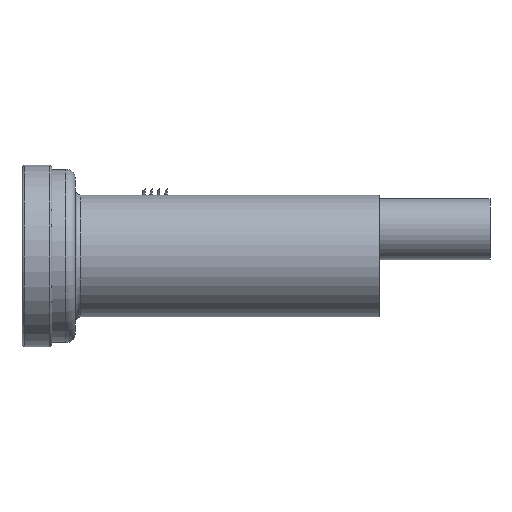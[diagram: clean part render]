
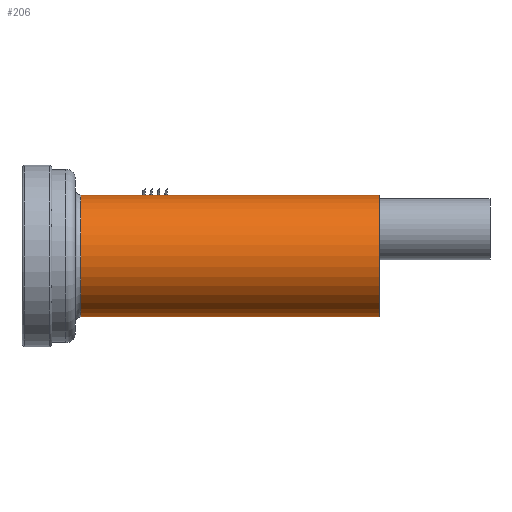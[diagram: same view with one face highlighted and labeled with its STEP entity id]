
A CAD part, left-side view. The second image highlights one B-rep face of the part: STEP entity #206.
In plain terms, the highlighted cylindrical face has radius 45 mm (diameter 90 mm), a full revolution.
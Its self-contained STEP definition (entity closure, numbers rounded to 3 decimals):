
#206 = ADVANCED_FACE( '', ( #451, #452 ), #453, .T. );
#451 = FACE_OUTER_BOUND( '', #853, .T. );
#452 = FACE_OUTER_BOUND( '', #854, .T. );
#453 = CYLINDRICAL_SURFACE( '', #855, 45. );
#853 = EDGE_LOOP( '', ( #1249 ) );
#854 = EDGE_LOOP( '', ( #1250 ) );
#855 = AXIS2_PLACEMENT_3D( '', #1251, #1252, #1253 );
#1249 = ORIENTED_EDGE( '', *, *, #1821, .T. );
#1250 = ORIENTED_EDGE( '', *, *, #1822, .F. );
#1251 = CARTESIAN_POINT( '', ( 0., 0., 0. ) );
#1252 = DIRECTION( '', ( 0., 1., 0. ) );
#1253 = DIRECTION( '', ( 0., 0., -1. ) );
#1821 = EDGE_CURVE( '', #2022, #2022, #2023, .T. );
#1822 = EDGE_CURVE( '', #2024, #2024, #2025, .T. );
#2022 = VERTEX_POINT( '', #2310 );
#2023 = CIRCLE( '', #2311, 45. );
#2024 = VERTEX_POINT( '', #2312 );
#2025 = CIRCLE( '', #2313, 45. );
#2310 = CARTESIAN_POINT( '', ( 0., 220.5, -45. ) );
#2311 = AXIS2_PLACEMENT_3D( '', #2600, #2601, #2602 );
#2312 = CARTESIAN_POINT( '', ( 0., 0., -45. ) );
#2313 = AXIS2_PLACEMENT_3D( '', #2603, #2604, #2605 );
#2600 = CARTESIAN_POINT( '', ( 0., 220.5, 0. ) );
#2601 = DIRECTION( '', ( 0., -1., 0. ) );
#2602 = DIRECTION( '', ( 0., 0., -1. ) );
#2603 = CARTESIAN_POINT( '', ( 0., 0., 0. ) );
#2604 = DIRECTION( '', ( 0., -1., 0. ) );
#2605 = DIRECTION( '', ( 0., 0., -1. ) );
